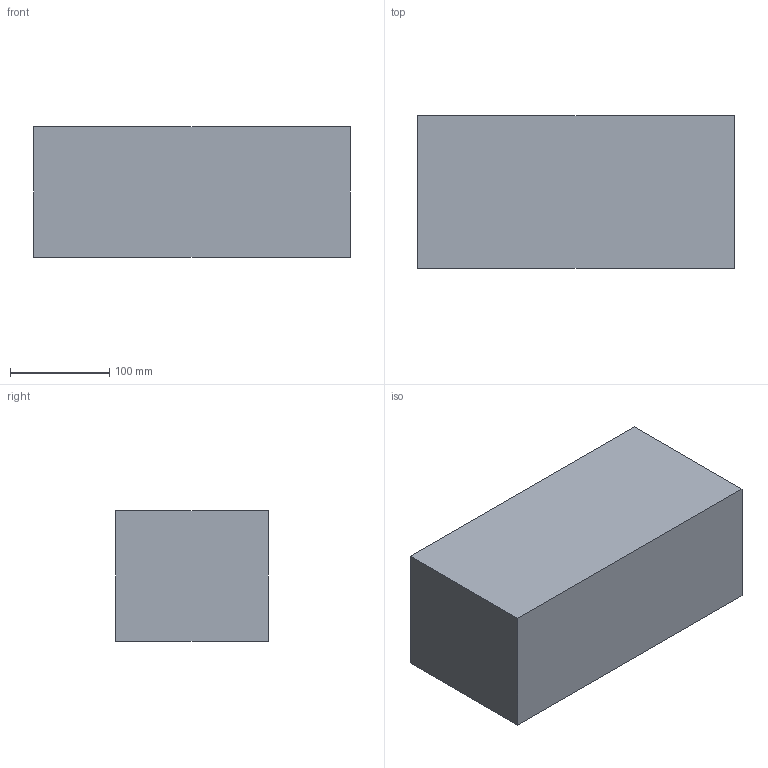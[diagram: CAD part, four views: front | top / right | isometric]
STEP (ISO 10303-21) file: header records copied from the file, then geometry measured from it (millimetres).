
FILE_DESCRIPTION (( 'STEP AP214' ), '1' );
FILE_NAME ('Markforged_Build_Volume_320-132-154.STEP', '2020-03-23T18:14:46', ( '' ), ( '' ), 'SwSTEP 2.0', 'SolidWorks 2016', '' );
FILE_SCHEMA (( 'AUTOMOTIVE_DESIGN' ));
Length unit declared in the file: inch
Products named in the file (2): Markforged_Build_Volume_320-132-154
Bounding box: 320 x 154 x 132 mm (x, y, z)
Surface area: 181456 mm2 (no closed solid volume)
Topology: 0 solids, 2 shells, 5 faces, 16 edges, 12 vertices
Faces by surface type: plane 5
Entity records: 280 total; most frequent: CARTESIAN_POINT 35, DIRECTION 30, ORIENTED_EDGE 20, VECTOR 16, LINE 16, EDGE_CURVE 16, VERTEX_POINT 12, DIMENSIONAL_EXPONENTS 7
